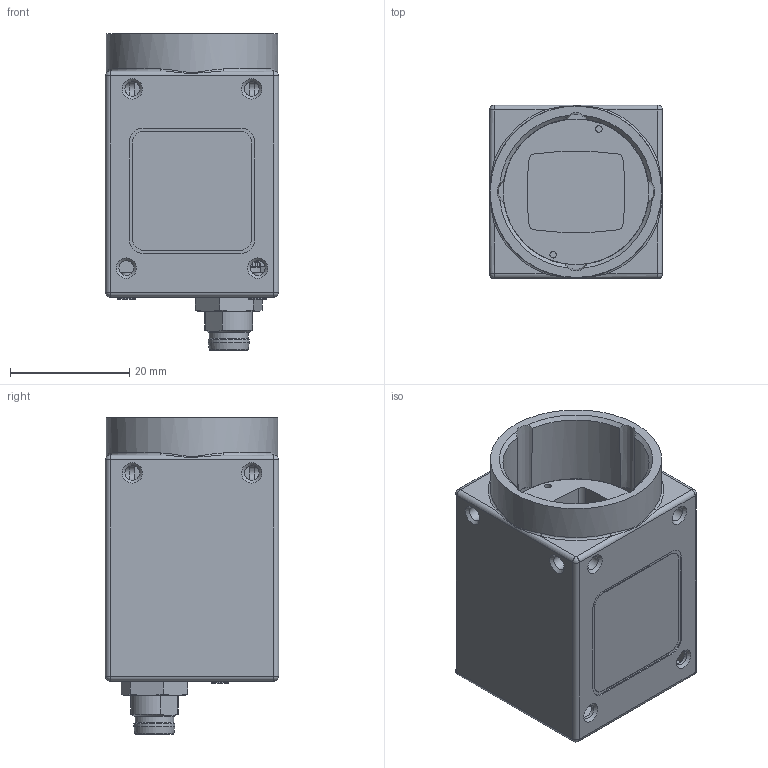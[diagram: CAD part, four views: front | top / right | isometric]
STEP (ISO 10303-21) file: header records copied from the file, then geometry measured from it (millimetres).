
FILE_DESCRIPTION( ( 'Unknown' ), '1' );
FILE_NAME( 'C:/Users/rih/Desktop/11165898_VCXU-123M.stp', '14.10.2014', ( 'Unknown' ), ( 'Unknown' ), 'PSStep 15.0.49', 'Unknown', ' ' );
FILE_SCHEMA( ( 'AUTOMOTIVE_DESIGN { 1 0 10303 214 1 1 1 1 }' ) );
Length unit declared in the file: millimetre
Products named in the file (4): 11104603
Bounding box: 29 x 29 x 53 mm (x, y, z)
Volume: 10443 mm3; surface area: 16216.1 mm2
Topology: 4 solids, 8 shells, 1790 faces, 4518 edges, 3004 vertices
Faces by surface type: plane 1067, cylinder 581, cone 71, torus 27, sphere 24, bspline 12, extrusion 8
Full cylindrical faces by diameter (mm): 0.217 x1, 0.6 x242, 0.7 x1, 0.9 x1, 1.1 x2, 1.4 x4, 1.567 x2, 1.6 x2, 1.9 x4, 2.459 x10, 3 x4, 6.5 x1, 6.9 x1, 8.4 x1, 9 x1, 9.4 x1, 24.4 x1, 26 x1, 28.7 x1
Entity records: 69458 total; most frequent: CARTESIAN_POINT 11606, DIRECTION 8392, ORIENTED_EDGE 7700, EDGE_CURVE 3850, AXIS2_PLACEMENT_3D 3080, VERTEX_POINT 2708, EDGE_LOOP 2502, PRESENTATION_STYLE_ASSIGNMENT 2459
